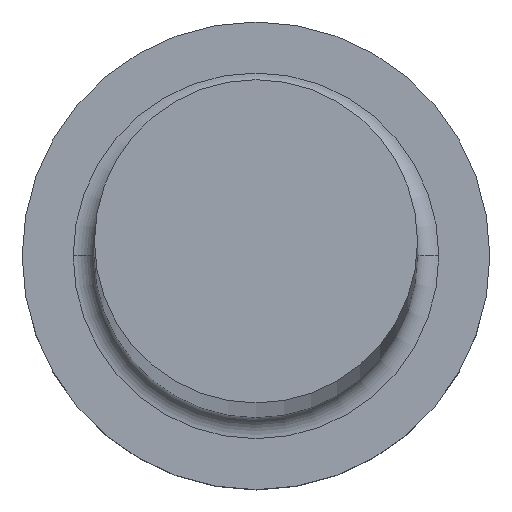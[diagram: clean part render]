
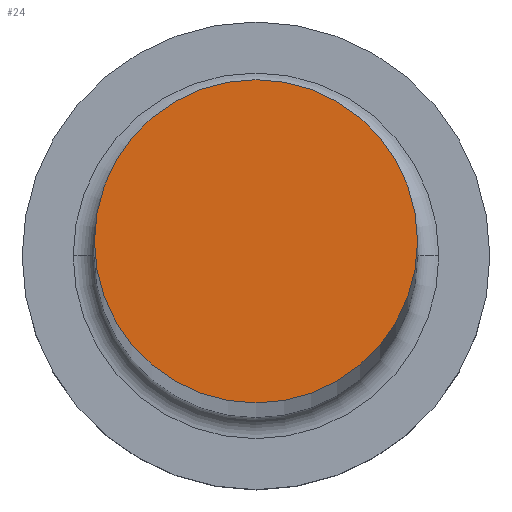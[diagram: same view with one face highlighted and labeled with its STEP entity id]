
A CAD part, top view. The second image highlights one B-rep face of the part: STEP entity #24.
In plain terms, the highlighted planar face has unit normal (0, 0, 1).
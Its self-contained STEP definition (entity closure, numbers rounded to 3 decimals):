
#11 = AXIS2_PLACEMENT_3D ( 'NONE', #252, #206, #271 ) ;
#17 = CARTESIAN_POINT ( 'NONE',  ( -3.8, 0., 200. ) ) ;
#24 = ADVANCED_FACE ( 'NONE', ( #153 ), #48, .F. ) ;
#31 = CARTESIAN_POINT ( 'NONE',  ( 3.8, 0., 200. ) ) ;
#32 = DIRECTION ( 'NONE',  ( 0., 0., -1. ) ) ;
#35 = EDGE_CURVE ( 'NONE', #59, #169, #108, .T. ) ;
#44 = AXIS2_PLACEMENT_3D ( 'NONE', #215, #111, #155 ) ;
#48 = PLANE ( 'NONE',  #129 ) ;
#59 = VERTEX_POINT ( 'NONE', #31 ) ;
#86 = CIRCLE ( 'NONE', #11, 3.8 ) ;
#89 = EDGE_LOOP ( 'NONE', ( #158, #182 ) ) ;
#106 = DIRECTION ( 'NONE',  ( -1., 0., 0. ) ) ;
#108 = CIRCLE ( 'NONE', #44, 3.8 ) ;
#111 = DIRECTION ( 'NONE',  ( 0., 0., -1. ) ) ;
#129 = AXIS2_PLACEMENT_3D ( 'NONE', #213, #32, #106 ) ;
#153 = FACE_OUTER_BOUND ( 'NONE', #89, .T. ) ;
#155 = DIRECTION ( 'NONE',  ( -1., 0., 0. ) ) ;
#158 = ORIENTED_EDGE ( 'NONE', *, *, #266, .F. ) ;
#169 = VERTEX_POINT ( 'NONE', #17 ) ;
#182 = ORIENTED_EDGE ( 'NONE', *, *, #35, .F. ) ;
#206 = DIRECTION ( 'NONE',  ( 0., 0., -1. ) ) ;
#213 = CARTESIAN_POINT ( 'NONE',  ( 0., 0., 200. ) ) ;
#215 = CARTESIAN_POINT ( 'NONE',  ( 0., 0., 200. ) ) ;
#252 = CARTESIAN_POINT ( 'NONE',  ( 0., 0., 200. ) ) ;
#266 = EDGE_CURVE ( 'NONE', #169, #59, #86, .T. ) ;
#271 = DIRECTION ( 'NONE',  ( -1., 0., 0. ) ) ;
